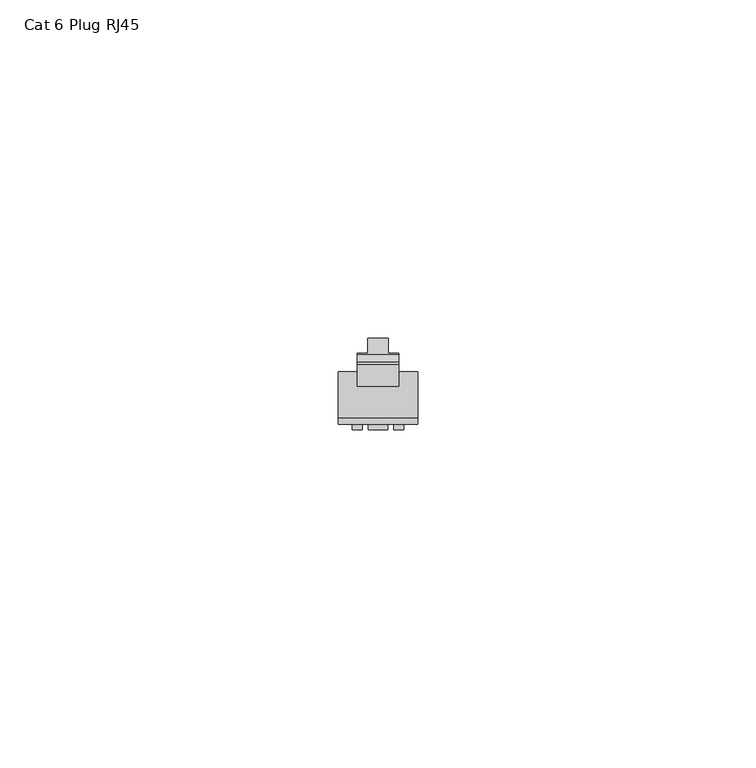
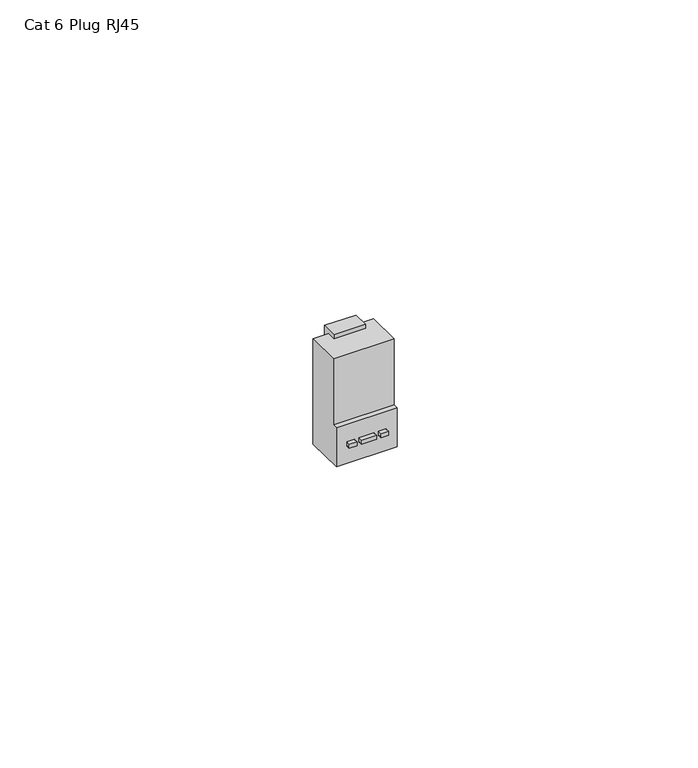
"""IFC4 building model written with IfcOpenShell, lengths in millimetres: electric appliance geometry, Data_Device-Network-Leviton-Cat_6-Plug : Cat 6 Plug RJ45."""

from ifc_helpers import new_model, si_unit, origin, place, context, project, spatial, faceted_brep, source, transform, mapped, element, save


def cat_6_plug_rj45_8d859037(model_context):
    return source(origin(), model_context, "Body", "Brep", [
        faceted_brep([(-17.1831, 9.5233298, -20.456), (-17.1831, 9.5233298, 1.0479287), (-17.1831, 2.7632978, 1.0479287), (-17.1831, 2.7632978, -12.4064413), (-17.1831, 1.7990638, -12.4064413), (-17.1831, 1.7990638, -20.456), (-28.8671, 9.5233298, -20.456), (-28.8671, 1.7990638, -20.456), (-28.8671, 1.7990638, -12.4064413), (-28.8671, 2.7632978, -12.4064413), (-28.8671, 2.7632978, 1.0479287), (-28.8671, 9.5233298, 1.0479287), (-19.2208162, 1.7990638, -16.0208717), (-19.2208162, 1.7990638, -16.9098717), (-20.7203615, 1.7990638, -16.9098717), (-20.7203615, 1.7990638, -16.0208717), (-25.3298385, 1.7990638, -16.0208717), (-25.3298385, 1.7990638, -16.9098717), (-26.8293838, 1.7990638, -16.9098717), (-26.8293838, 1.7990638, -16.0208717), (-21.5553355, 1.7990638, -16.0208717), (-21.5553355, 1.7990638, -16.9098717), (-24.4948645, 1.7990638, -16.9098717), (-24.4948645, 1.7990638, -16.0208717), (-20.7203615, 1.0092825, -16.0208717), (-19.2208162, 1.0092825, -16.0208717), (-26.8293838, 1.0092825, -16.0208717), (-25.3298385, 1.0092825, -16.0208717), (-24.4948645, 1.0092825, -16.0208717), (-21.5553355, 1.0092825, -16.0208717), (-26.8293838, 1.0092825, -16.9098717), (-25.3298385, 1.0092825, -16.9098717), (-20.7203615, 1.0092825, -16.9098717), (-19.2208162, 1.0092825, -16.9098717), (-24.4948645, 1.0092825, -16.9098717), (-21.5553355, 1.0092825, -16.9098717)], [[[0, 1, 2, 3, 4, 5]], [[6, 7, 8, 9, 10, 11]], [[1, 0, 6, 11]], [[2, 1, 11, 10]], [[3, 2, 10, 9]], [[8, 4, 3, 9]], [[5, 4, 8, 7], [12, 13, 14, 15], [16, 17, 18, 19], [20, 21, 22, 23]], [[12, 15, 24, 25]], [[16, 19, 26, 27]], [[20, 23, 28, 29]], [[27, 26, 30, 31]], [[25, 24, 32, 33]], [[29, 28, 34, 35]], [[31, 30, 18, 17]], [[33, 32, 14, 13]], [[35, 34, 22, 21]], [[0, 5, 7, 6]], [[19, 18, 30, 26]], [[13, 12, 25, 33]], [[23, 22, 34, 28]], [[17, 16, 27, 31]], [[15, 14, 32, 24]], [[21, 20, 29, 35]]]),
        faceted_brep([(-19.9771, 7.4305698, 2.15), (-19.9771, 7.4305698, 1.0479287), (-19.9771, 9.5233298, 1.0479287), (-19.9771, 9.5233298, -2.0736719), (-19.9771, 10.4673807, -5.6610653), (-19.9771, 12.2917669, -5.6610653), (-19.9771, 12.117187, -4.818768), (-19.9771, 11.0433308, -3.7449118), (-19.9771, 10.5918963, -2.0294607), (-19.9771, 10.5918963, 2.15), (-26.0731, 7.4305698, 2.15), (-26.0731, 10.5918963, 2.15), (-26.0731, 10.5918963, -2.0294607), (-26.0731, 11.0433308, -3.7449118), (-26.0731, 12.117187, -4.818768), (-26.0731, 12.2917669, -5.6610653), (-26.0731, 10.4673807, -5.6610653), (-26.0731, 9.5233298, -2.0736719), (-26.0731, 9.5233298, 1.0479287), (-26.0731, 7.4305698, 1.0479287), (-24.5491, 12.2917669, -5.6610653), (-24.5491, 10.9208345, -5.6610653), (-21.5011, 10.9208345, -5.6610653), (-21.5011, 12.2917669, -5.6610653), (-21.5011, 14.4712825, -16.1765977), (-24.5491, 14.4712825, -16.1765977), (-21.5011, 13.1003502, -16.1765977), (-24.5491, 13.1003502, -16.1765977)], [[[0, 1, 2, 3, 4, 5, 6, 7, 8, 9]], [[10, 11, 12, 13, 14, 15, 16, 17, 18, 19]], [[1, 0, 10, 19]], [[2, 1, 19, 18]], [[3, 2, 18, 17]], [[4, 3, 17, 16]], [[5, 4, 16, 15, 20, 21, 22, 23]], [[6, 5, 23, 24, 25, 20, 15, 14]], [[7, 6, 14, 13]], [[8, 7, 13, 12]], [[9, 8, 12, 11]], [[0, 9, 11, 10]], [[24, 23, 22, 26]], [[25, 27, 21, 20]], [[26, 22, 21, 27]], [[24, 26, 27, 25]]]),
    ])


if __name__ == "__main__":
    model = new_model("IFC4")
    model_context = context("Model", 3, world=origin())
    ifc_project = project(units=[si_unit("LENGTHUNIT", "METRE", prefix="MILLI")], contexts=[model_context])
    site = spatial("IfcSite", under=ifc_project)
    building = spatial("IfcBuilding", under=site)
    placement = place(None, origin())
    cat_6_plug_rj45_shape = cat_6_plug_rj45_8d859037(model_context)
    element("IfcElectricAppliance", 1, ObjectType="Data_Device-Network-Leviton-Cat_6-Plug : Cat 6 Plug RJ45", at=placement, inside=building, context=model_context, shape_type="MappedRepresentation", body=[
        mapped(cat_6_plug_rj45_shape, transform((0.0, 0.0, 0.0), x_axis=(1.0, 0.0, 0.0), y_axis=(0.0, 1.0, 0.0), z_axis=(0.0, 0.0, 1.0))),
    ])
    save(model, "model.ifc")
